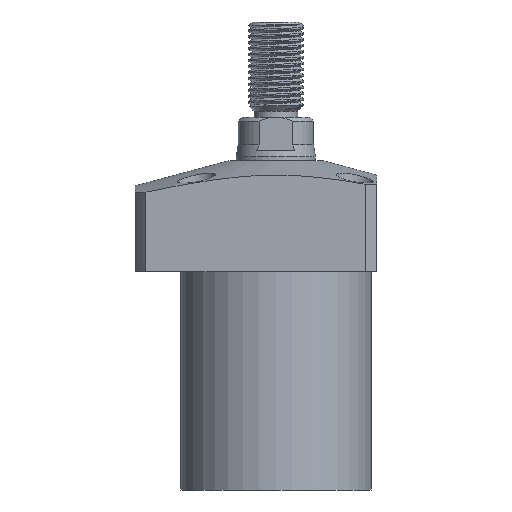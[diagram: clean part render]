
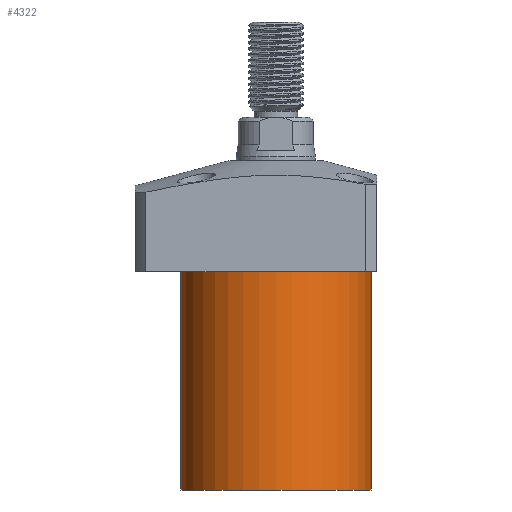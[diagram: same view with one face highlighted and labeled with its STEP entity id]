
A CAD part, front view. The second image highlights one B-rep face of the part: STEP entity #4322.
In plain terms, the highlighted cylindrical face has radius 24 mm (diameter 48 mm), a partial arc.
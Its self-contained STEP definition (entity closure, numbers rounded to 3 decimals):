
#22 = DIRECTION ( 'NONE',  ( 0., 0., 1. ) ) ;
#88 = CIRCLE ( 'NONE', #863, 24. ) ;
#200 = CARTESIAN_POINT ( 'NONE',  ( -24., 0., -14. ) ) ;
#332 = CARTESIAN_POINT ( 'NONE',  ( 0., 0., -14. ) ) ;
#427 = CYLINDRICAL_SURFACE ( 'NONE', #1398, 24. ) ;
#466 = EDGE_CURVE ( 'NONE', #4858, #476, #88, .T. ) ;
#476 = VERTEX_POINT ( 'NONE', #4366 ) ;
#503 = EDGE_CURVE ( 'NONE', #4282, #928, #4417, .T. ) ;
#603 = LINE ( 'NONE', #4793, #4761 ) ;
#607 = CARTESIAN_POINT ( 'NONE',  ( 24., 0., -69. ) ) ;
#774 = DIRECTION ( 'NONE',  ( 0., 0., 1. ) ) ;
#811 = ORIENTED_EDGE ( 'NONE', *, *, #503, .T. ) ;
#863 = AXIS2_PLACEMENT_3D ( 'NONE', #4787, #2794, #2332 ) ;
#928 = VERTEX_POINT ( 'NONE', #200 ) ;
#1131 = EDGE_LOOP ( 'NONE', ( #2403, #4903, #4298, #811 ) ) ;
#1136 = DIRECTION ( 'NONE',  ( 1., 0., 0. ) ) ;
#1137 = CARTESIAN_POINT ( 'NONE',  ( 24., 0., -69. ) ) ;
#1398 = AXIS2_PLACEMENT_3D ( 'NONE', #3984, #774, #4016 ) ;
#1502 = DIRECTION ( 'NONE',  ( 0., 0., 1. ) ) ;
#1683 = AXIS2_PLACEMENT_3D ( 'NONE', #332, #3538, #1136 ) ;
#1749 = EDGE_CURVE ( 'NONE', #476, #928, #603, .T. ) ;
#2332 = DIRECTION ( 'NONE',  ( -1., 0., 0. ) ) ;
#2400 = EDGE_CURVE ( 'NONE', #4858, #4282, #2585, .T. ) ;
#2403 = ORIENTED_EDGE ( 'NONE', *, *, #1749, .F. ) ;
#2434 = FACE_OUTER_BOUND ( 'NONE', #1131, .T. ) ;
#2585 = LINE ( 'NONE', #1137, #4675 ) ;
#2794 = DIRECTION ( 'NONE',  ( 0., 0., -1. ) ) ;
#3531 = CARTESIAN_POINT ( 'NONE',  ( 24., 0., -14. ) ) ;
#3538 = DIRECTION ( 'NONE',  ( 0., 0., -1. ) ) ;
#3984 = CARTESIAN_POINT ( 'NONE',  ( 0., 0., -69. ) ) ;
#4016 = DIRECTION ( 'NONE',  ( 1., 0., 0. ) ) ;
#4282 = VERTEX_POINT ( 'NONE', #3531 ) ;
#4298 = ORIENTED_EDGE ( 'NONE', *, *, #2400, .T. ) ;
#4322 = ADVANCED_FACE ( 'NONE', ( #2434 ), #427, .T. ) ;
#4366 = CARTESIAN_POINT ( 'NONE',  ( -24., 0., -69. ) ) ;
#4417 = CIRCLE ( 'NONE', #1683, 24. ) ;
#4675 = VECTOR ( 'NONE', #1502, 1000. ) ;
#4761 = VECTOR ( 'NONE', #22, 1000. ) ;
#4787 = CARTESIAN_POINT ( 'NONE',  ( 0., 0., -69. ) ) ;
#4793 = CARTESIAN_POINT ( 'NONE',  ( -24., 0., -69. ) ) ;
#4858 = VERTEX_POINT ( 'NONE', #607 ) ;
#4903 = ORIENTED_EDGE ( 'NONE', *, *, #466, .F. ) ;
